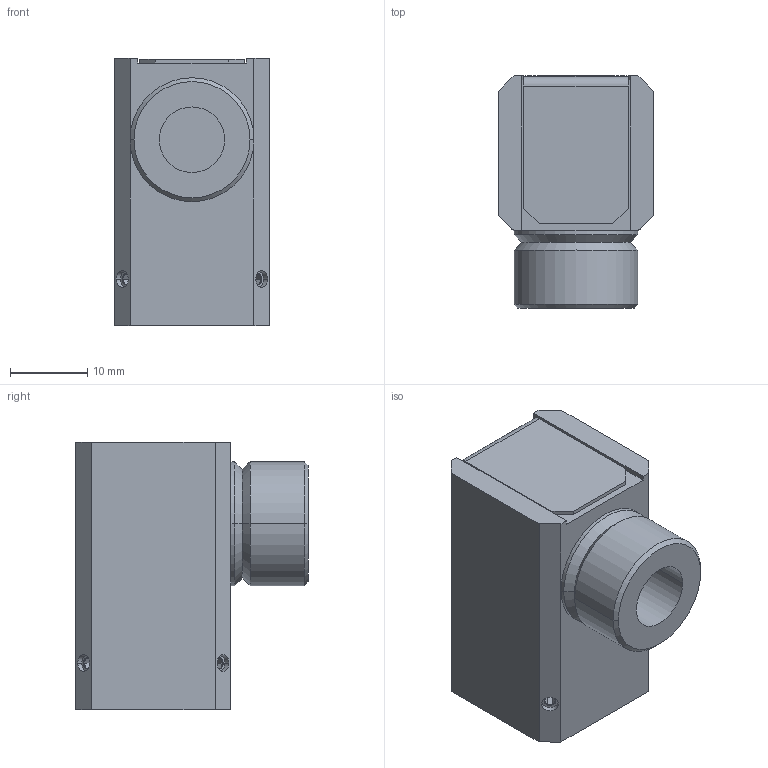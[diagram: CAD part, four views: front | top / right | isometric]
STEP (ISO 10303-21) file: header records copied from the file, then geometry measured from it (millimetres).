
FILE_DESCRIPTION (( 'STEP AP214' ), '1' );
FILE_NAME ('MML-P6.STEP', '2026-02-24T05:27:55', ( '' ), ( '' ), 'SwSTEP 2.0', 'SolidWorks 2025', '' );
FILE_SCHEMA (( 'AUTOMOTIVE_DESIGN' ));
Length unit declared in the file: millimetre
Products named in the file (1): MML-P6
Bounding box: 20 x 30 x 34.5 mm (x, y, z)
Volume: 11001.6 mm3; surface area: 5628.8 mm2
Topology: 1 solids, 1 shells, 192 faces, 455 edges, 278 vertices
Faces by surface type: plane 97, cone 60, cylinder 35
Entity records: 5740 total; most frequent: CARTESIAN_POINT 1302, DIRECTION 935, ORIENTED_EDGE 894, EDGE_CURVE 447, AXIS2_PLACEMENT_3D 335, VERTEX_POINT 278, LINE 265, VECTOR 265
